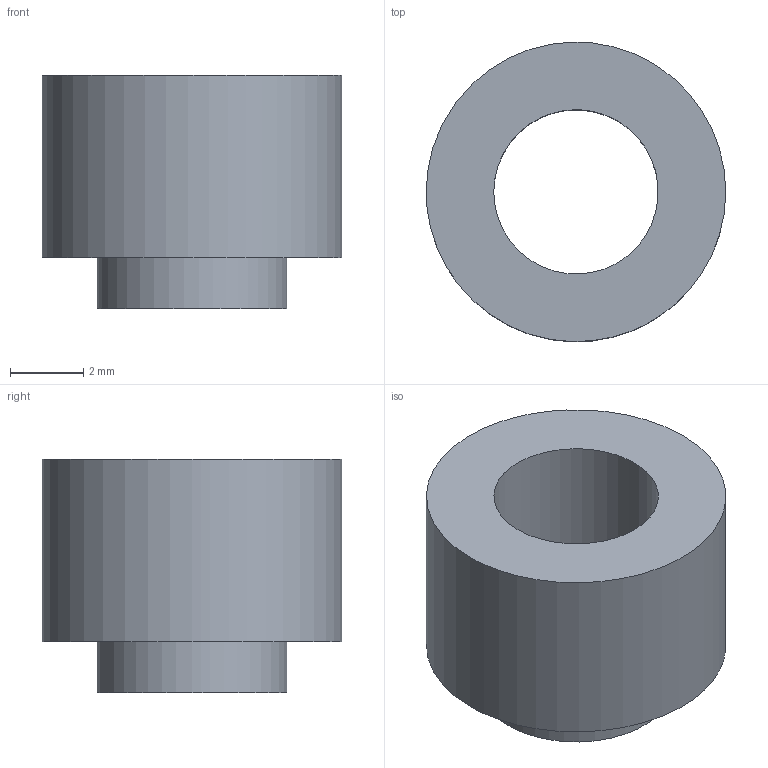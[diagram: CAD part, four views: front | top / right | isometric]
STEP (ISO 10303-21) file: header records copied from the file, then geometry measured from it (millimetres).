
FILE_DESCRIPTION(('FreeCAD Model'),'2;1');
FILE_NAME('Open CASCADE Shape Model','2026-03-20T17:23:16',('Author'),( ''),'Open CASCADE STEP processor 7.8','FreeCAD','Unknown');
FILE_SCHEMA(('AP242_MANAGED_MODEL_BASED_3D_ENGINEERING_MIM_LF. {1 0 10303 442 1 1 4 }'));
Length unit declared in the file: millimetre
Products named in the file (1): 1_transformed
Bounding box: 8.2 x 8.2 x 6.4 mm (x, y, z)
Volume: 193.6 mm3; surface area: 316.6 mm2
Topology: 1 solids, 1 shells, 6 faces, 9 edges, 6 vertices
Faces by surface type: bspline 6
Entity records: 201 total; most frequent: CARTESIAN_POINT 109, ORIENTED_EDGE 18, FACE_BOUND 9, EDGE_LOOP 9, EDGE_CURVE 9, ADVANCED_FACE 6, VERTEX_POINT 6, B_SPLINE_CURVE_WITH_KNOTS 3
